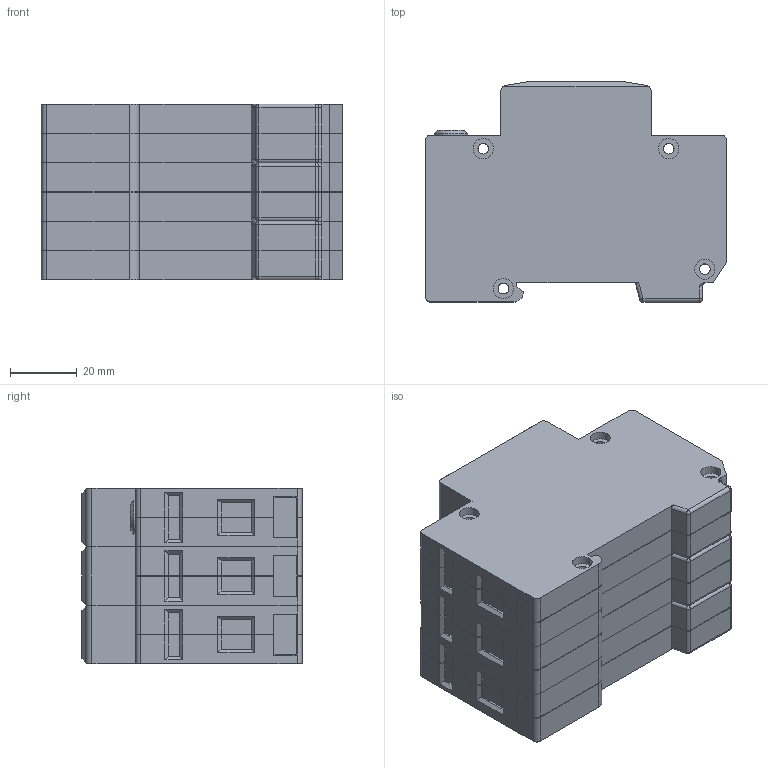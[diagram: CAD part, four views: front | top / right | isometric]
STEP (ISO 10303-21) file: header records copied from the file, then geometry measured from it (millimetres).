
FILE_DESCRIPTION(/* description */ (''),/* implementation_level */ '2;1');
FILE_NAME(/* name */ 'K:\PROJEKTY ROZPRACOVANÉ\MODELY DO KATALOGU\HSA, HLSA 24520, 10007\3D - STEP\HLSA 3+0.stp',/* time_stamp */ '2020-03-17T07:38:52+01:00',/* author */ ('M Koliska'),/* organization */ (''),/* preprocessor_version */ 'ST-DEVELOPER v18',/* originating_system */ 'Autodesk Inventor 2020',/* authorisation */ '');
FILE_SCHEMA (('AUTOMOTIVE_DESIGN { 1 0 10303 214 3 1 1 }'));
Length unit declared in the file: millimetre
Products named in the file (6): HLSA 3+0; HLSA; HLSA_1; HLSA (Z); HLSA (Z)_1; DIN 7985 (H) - M5x6-H
Assembly tree (8 placements, depth 3):
  HLSA 3+0
    HLSA  x2
      HLSA_1
      DIN 7985 (H) - M5x6-H
    HLSA (Z)
      HLSA (Z)_1
      DIN 7985 (H) - M5x6-H
Bounding box: 90 x 65.8 x 52.5 mm (x, y, z)
Volume: 253101.3 mm3; surface area: 54558.1 mm2
Topology: 8 solids, 8 shells, 889 faces, 2469 edges, 1631 vertices
Faces by surface type: plane 631, cylinder 144, cone 86, sphere 17, torus 11
Full cylindrical faces by diameter (mm): 3.2 x12, 4.6 x5, 5 x5, 6 x24, 10 x1
Entity records: 16185 total; most frequent: CARTESIAN_POINT 2889, ORIENTED_EDGE 2780, DIRECTION 2681, EDGE_CURVE 1390, LINE 1083, VECTOR 1083, VERTEX_POINT 915, AXIS2_PLACEMENT_3D 799
